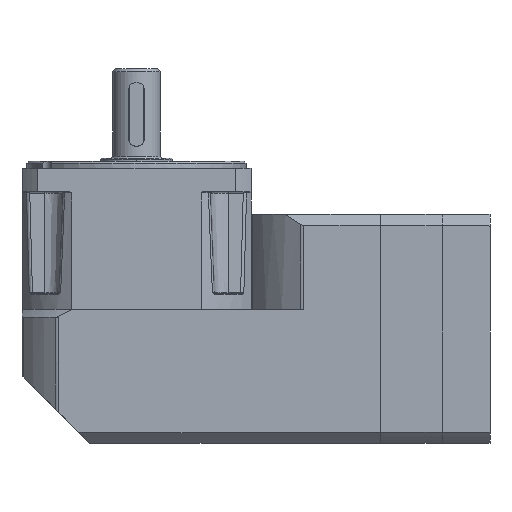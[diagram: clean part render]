
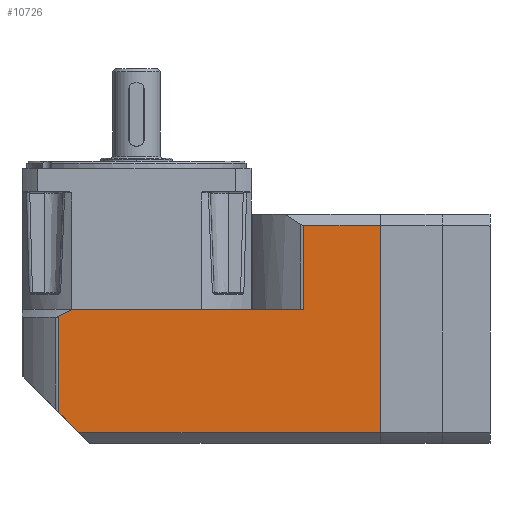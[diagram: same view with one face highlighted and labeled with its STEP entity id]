
A CAD part, front view. The second image highlights one B-rep face of the part: STEP entity #10726.
In plain terms, the highlighted planar face has unit normal (0, -1, 0).
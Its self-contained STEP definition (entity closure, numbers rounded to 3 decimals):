
#10087=CARTESIAN_POINT('',(-6.338,-57.5,18.529));
#10135=DIRECTION('',(1.,0.,0.));
#10136=VECTOR('',#10135,42.2);
#10137=CARTESIAN_POINT('',(-52.,-57.5,141.397));
#10138=LINE('',#10137,#10136);
#10139=DIRECTION('',(0.,0.,1.));
#10140=VECTOR('',#10139,38.603);
#10141=CARTESIAN_POINT('',(-52.,-57.5,141.397));
#10142=LINE('',#10141,#10140);
#10143=DIRECTION('',(0.,0.,1.));
#10144=VECTOR('',#10143,151.5);
#10145=CARTESIAN_POINT('',(52.,-57.5,28.5));
#10146=LINE('',#10145,#10144);
#10147=DIRECTION('',(0.707,0.,0.707));
#10148=VECTOR('',#10147,14.101);
#10149=CARTESIAN_POINT('',(42.029,-57.5,18.529));
#10150=LINE('',#10149,#10148);
#10151=DIRECTION('',(1.,0.,0.));
#10152=VECTOR('',#10151,48.367);
#10153=CARTESIAN_POINT('',(-6.338,-57.5,18.529));
#10154=LINE('',#10153,#10152);
#10155=CARTESIAN_POINT('',(-9.8,-57.5,25.1));
#10156=CARTESIAN_POINT('',(-9.454,-57.5,24.396));
#10157=CARTESIAN_POINT('',(-8.737,-57.5,22.971));
#10158=CARTESIAN_POINT('',(-7.586,-57.5,20.783));
#10159=CARTESIAN_POINT('',(-6.763,-57.5,19.286));
#10160=CARTESIAN_POINT('',(-6.338,-57.5,18.529));
#10263=DIRECTION('',(0.,0.,-1.));
#10264=VECTOR('',#10263,116.297);
#10265=CARTESIAN_POINT('',(-9.8,-57.5,141.397));
#10266=LINE('',#10265,#10264);
#10346=DIRECTION('',(1.,0.,0.));
#10347=VECTOR('',#10346,104.);
#10348=CARTESIAN_POINT('',(-52.,-57.5,180.));
#10349=LINE('',#10348,#10347);
#10371=CARTESIAN_POINT('',(-52.,-57.5,141.397));
#10402=CARTESIAN_POINT('',(52.,-57.5,180.));
#10404=VERTEX_POINT('',#10402);
#10406=CARTESIAN_POINT('',(52.,-57.5,28.5));
#10407=VERTEX_POINT('',#10406);
#10414=CARTESIAN_POINT('',(-52.,-57.5,180.));
#10416=VERTEX_POINT('',#10414);
#10424=CARTESIAN_POINT('',(-9.8,-57.5,25.1));
#10425=VERTEX_POINT('',#10424);
#10472=VERTEX_POINT('',#10371);
#10473=CARTESIAN_POINT('',(-9.8,-57.5,141.397));
#10474=VERTEX_POINT('',#10473);
#10479=VERTEX_POINT('',#10087);
#10480=CARTESIAN_POINT('',(42.029,-57.5,18.529));
#10481=VERTEX_POINT('',#10480);
#10706=CARTESIAN_POINT('',(-57.5,-57.5,0.));
#10707=DIRECTION('',(0.,-1.,0.));
#10708=DIRECTION('',(1.,0.,0.));
#10709=AXIS2_PLACEMENT_3D('',#10706,#10707,#10708);
#10710=PLANE('',#10709);
#10712=ORIENTED_EDGE('',*,*,#10711,.F.);
#10714=ORIENTED_EDGE('',*,*,#10713,.T.);
#10716=ORIENTED_EDGE('',*,*,#10715,.T.);
#10717=ORIENTED_EDGE('',*,*,#10698,.F.);
#10718=ORIENTED_EDGE('',*,*,#10584,.F.);
#10720=ORIENTED_EDGE('',*,*,#10719,.F.);
#10721=ORIENTED_EDGE('',*,*,#10638,.F.);
#10723=ORIENTED_EDGE('',*,*,#10722,.F.);
#10724=EDGE_LOOP('',(#10712,#10714,#10716,#10717,#10718,#10720,#10721,#10723));
#10725=FACE_OUTER_BOUND('',#10724,.F.);
#10726=ADVANCED_FACE('',(#10725),#10710,.T.);
#10161=B_SPLINE_CURVE_WITH_KNOTS('',3,(#10155,#10156,#10157,#10158,#10159,
#10160),.UNSPECIFIED.,.F.,.F.,(4,1,1,4),(0.,0.333,
0.667,1.),.UNSPECIFIED.);
#10584=EDGE_CURVE('',#10481,#10407,#10150,.T.);
#10638=EDGE_CURVE('',#10425,#10479,#10161,.T.);
#10698=EDGE_CURVE('',#10407,#10404,#10146,.T.);
#10711=EDGE_CURVE('',#10472,#10474,#10138,.T.);
#10713=EDGE_CURVE('',#10472,#10416,#10142,.T.);
#10715=EDGE_CURVE('',#10416,#10404,#10349,.T.);
#10719=EDGE_CURVE('',#10479,#10481,#10154,.T.);
#10722=EDGE_CURVE('',#10474,#10425,#10266,.T.);
